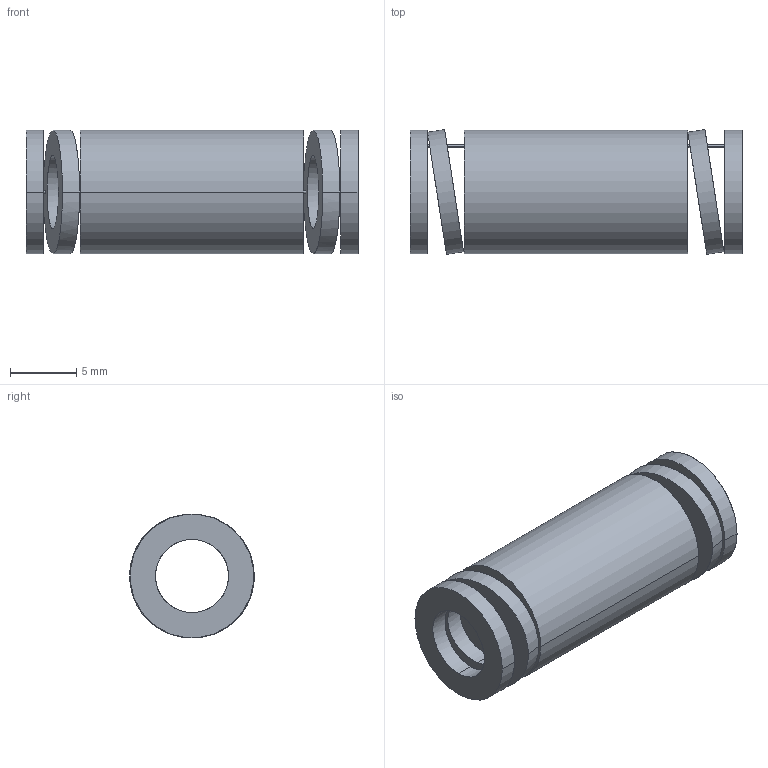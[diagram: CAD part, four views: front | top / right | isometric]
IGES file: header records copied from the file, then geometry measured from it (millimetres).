
Start section: START RECORD GO HERE.
Global section: file name: 392-B10-025.igs; native system: DASSAULT SYSTEMES CATIA V5 R20 - www.3ds.com; preprocessor: CATIA Version 5 Release 20 ; author: Utente; organization: NB04-ASUS; date: 20210812.150410; units: millimetre
Bounding box: 25 x 9.39 x 9.3 mm (x, y, z)
Surface area: 1465.6 mm2 (no closed solid volume)
Topology: 0 solids, 0 shells, 38 faces, 184 edges, 184 vertices
Faces by surface type: revolution 28, plane 10
